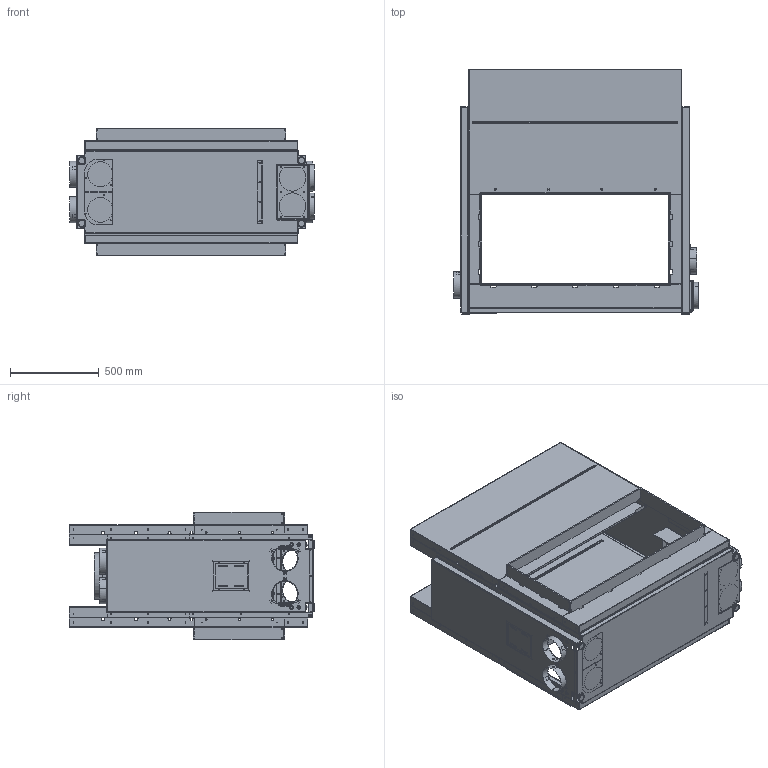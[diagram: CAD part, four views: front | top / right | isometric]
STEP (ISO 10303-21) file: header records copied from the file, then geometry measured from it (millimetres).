
FILE_DESCRIPTION (( 'STEP AP214' ), '1' );
FILE_NAME ('W105 47T.STEP', '2020-03-04T11:05:55', ( '' ), ( '' ), 'SwSTEP 2.0', 'SolidWorks 2018', '' );
FILE_SCHEMA (( 'AUTOMOTIVE_DESIGN' ));
Length unit declared in the file: millimetre
Products named in the file (1): W105 47T
Bounding box: 1377.5 x 1381.5 x 715.8 mm (x, y, z)
Volume: 18724989.7 mm3; surface area: 16640235 mm2
Topology: 80 solids, 80 shells, 3709 faces, 9794 edges, 6268 vertices
Faces by surface type: plane 2069, cylinder 1502, bspline 98, cone 40
Full cylindrical faces by diameter (mm): 232 x1, 236 x1, 250 x1, 254 x1, 256 x1, 260 x1
Entity records: 161796 total; most frequent: CARTESIAN_POINT 25134, DIRECTION 19828, ORIENTED_EDGE 19548, EDGE_CURVE 9774, AXIS2_PLACEMENT_3D 6712, VECTOR 6404, LINE 6404, VERTEX_POINT 6268
